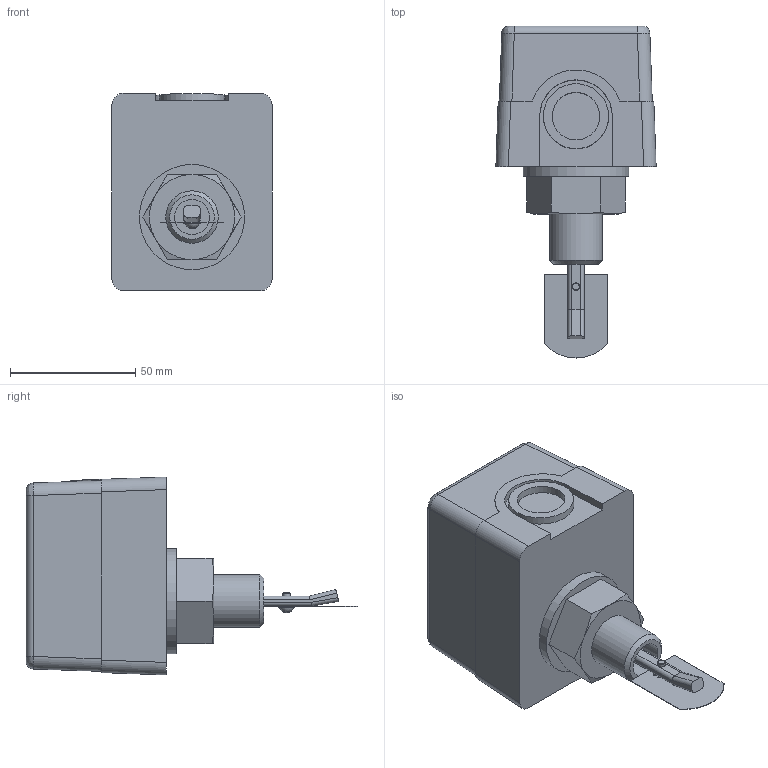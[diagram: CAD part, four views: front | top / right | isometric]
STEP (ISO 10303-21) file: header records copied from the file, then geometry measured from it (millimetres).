
FILE_DESCRIPTION(/* description */ ('РП-1-R1/2 Лопасть 33,5'),/* implementation_level */ '2;1');
FILE_NAME(/* name */ 'D:\STEP\РП\РП-1-R1_2 Лопасть 33,5.stp',/* time_stamp */ '2023-05-10T12:37:36+03:00',/* author */ ('Tech'),/* organization */ (''),/* preprocessor_version */ 'ST-DEVELOPER v18.1',/* originating_system */ 'Autodesk Inventor 2021',/* authorisation */ '');
FILE_SCHEMA (('AUTOMOTIVE_DESIGN { 1 0 10303 214 3 1 1 }'));
Length unit declared in the file: millimetre
Products named in the file (1): РП-1-R1/2 Лопасть 
33,5
Bounding box: 64 x 132.5 x 79 mm (x, y, z)
Volume: 283247.2 mm3; surface area: 33102.9 mm2
Topology: 4 solids, 4 shells, 193 faces, 495 edges, 330 vertices
Faces by surface type: plane 113, cylinder 65, cone 9, bspline 4, torus 1, sphere 1
Full cylindrical faces by diameter (mm): 2.584 x1, 3 x2, 3.2 x1, 4.5 x1, 5.115 x1, 5.5 x1, 7 x1, 14 x1, 19 x1, 20.955 x1, 26 x1, 42 x1
Entity records: 6082 total; most frequent: CARTESIAN_POINT 1174, DIRECTION 1030, ORIENTED_EDGE 988, EDGE_CURVE 494, AXIS2_PLACEMENT_3D 366, VERTEX_POINT 330, LINE 298, VECTOR 298
